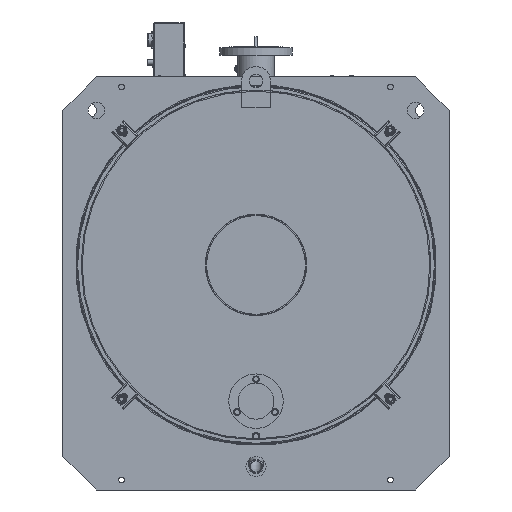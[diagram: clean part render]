
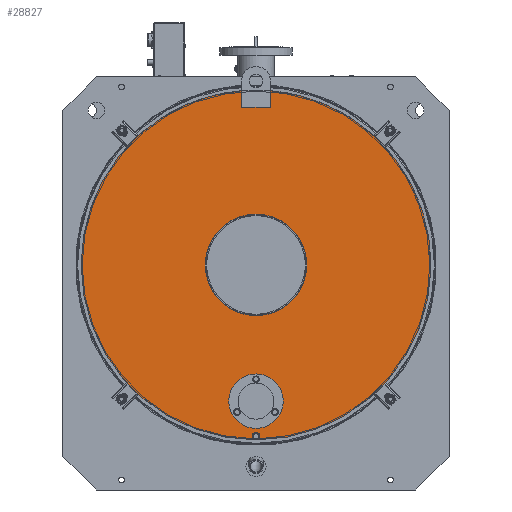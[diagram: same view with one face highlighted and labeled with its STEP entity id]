
A CAD part, left-side view. The second image highlights one B-rep face of the part: STEP entity #28827.
In plain terms, the highlighted planar face has unit normal (-1, 0, 0) by its records, which use the part's own axes.
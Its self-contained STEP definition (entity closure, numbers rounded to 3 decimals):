
#28827=ADVANCED_FACE('',(#94034,#94036,#94038),#94040,.T.);
#94034=FACE_BOUND('',#94035,.T.);
#94035=EDGE_LOOP('',(#129791,#129792,#129793,#129794,#129795,#129796,#129797,#129798,
#129799));
#94036=FACE_BOUND('',#94037,.T.);
#94037=EDGE_LOOP('',(#129800));
#94038=FACE_BOUND('',#94039,.T.);
#94039=EDGE_LOOP('',(#129801));
#94040=PLANE('',#94041);
#94041=AXIS2_PLACEMENT_3D('',#94042,#94043,#94044);
#94042=CARTESIAN_POINT('',(-2071.,0.,0.));
#94043=DIRECTION('',(-1.,0.,0.));
#94044=DIRECTION('',(0.,-1.,0.));
#129791=ORIENTED_EDGE('',*,*,#144763,.F.);
#129792=ORIENTED_EDGE('',*,*,#144764,.F.);
#129793=ORIENTED_EDGE('',*,*,#144765,.F.);
#129794=ORIENTED_EDGE('',*,*,#144694,.T.);
#129795=ORIENTED_EDGE('',*,*,#144693,.T.);
#129796=ORIENTED_EDGE('',*,*,#144766,.T.);
#129797=ORIENTED_EDGE('',*,*,#144767,.T.);
#129798=ORIENTED_EDGE('',*,*,#144768,.T.);
#129799=ORIENTED_EDGE('',*,*,#144696,.T.);
#129800=ORIENTED_EDGE('',*,*,#144769,.T.);
#129801=ORIENTED_EDGE('',*,*,#144770,.F.);
#144693=EDGE_CURVE('',#161404,#161402,#161405,.T.);
#144694=EDGE_CURVE('',#161406,#161404,#161407,.T.);
#144696=EDGE_CURVE('',#161410,#161408,#161411,.T.);
#144763=EDGE_CURVE('',#161527,#161408,#161528,.T.);
#144764=EDGE_CURVE('',#161529,#161527,#161530,.T.);
#144765=EDGE_CURVE('',#161406,#161529,#161531,.T.);
#144766=EDGE_CURVE('',#161402,#161532,#161533,.F.);
#144767=EDGE_CURVE('',#161532,#161534,#161535,.F.);
#144768=EDGE_CURVE('',#161534,#161410,#161536,.F.);
#144769=EDGE_CURVE('',#161537,#161537,#161538,.F.);
#144770=EDGE_CURVE('',#161539,#161539,#161540,.T.);
#161402=VERTEX_POINT('',#226069);
#161404=VERTEX_POINT('',#226073);
#161405=CIRCLE('',#226074,520.5);
#161406=VERTEX_POINT('',#226078);
#161407=CIRCLE('',#226079,520.5);
#161408=VERTEX_POINT('',#226083);
#161410=VERTEX_POINT('',#226088);
#161411=CIRCLE('',#226089,520.5);
#161527=VERTEX_POINT('',#226375);
#161528=LINE('',#226376,#226377);
#161529=VERTEX_POINT('',#226379);
#161530=LINE('',#226380,#226381);
#161531=LINE('',#226383,#226384);
#161532=VERTEX_POINT('',#226386);
#161533=LINE('',#226387,#226388);
#161534=VERTEX_POINT('',#226390);
#161535=CIRCLE('',#226391,11.);
#161536=LINE('',#226395,#226396);
#161537=VERTEX_POINT('',#226398);
#161538=CIRCLE('',#226399,151.);
#161539=VERTEX_POINT('',#226403);
#161540=CIRCLE('',#226404,81.);
#226069=CARTESIAN_POINT('',(-2071.,4.583,-520.48));
#226073=CARTESIAN_POINT('',(-2071.,520.5,-0.378));
#226074=AXIS2_PLACEMENT_3D('',#226075,#226076,#226077);
#226075=CARTESIAN_POINT('',(-2071.,0.,0.));
#226076=DIRECTION('',(-1.,0.,0.));
#226077=DIRECTION('',(0.,1.,-0.001));
#226078=CARTESIAN_POINT('',(-2071.,43.,518.721));
#226079=AXIS2_PLACEMENT_3D('',#226080,#226081,#226082);
#226080=CARTESIAN_POINT('',(-2071.,0.,0.));
#226081=DIRECTION('',(-1.,0.,0.));
#226082=DIRECTION('',(0.,0.083,0.997));
#226083=CARTESIAN_POINT('',(-2071.,-43.,518.721));
#226088=CARTESIAN_POINT('',(-2071.,-4.583,-520.48));
#226089=AXIS2_PLACEMENT_3D('',#226090,#226091,#226092);
#226090=CARTESIAN_POINT('',(-2071.,0.,0.));
#226091=DIRECTION('',(-1.,0.,0.));
#226092=DIRECTION('',(0.,-0.009,-1.));
#226375=CARTESIAN_POINT('',(-2071.,-43.,469.5));
#226376=CARTESIAN_POINT('',(-2071.,-43.,469.5));
#226377=VECTOR('',#226378,1.);
#226378=DIRECTION('',(0.,0.,1.));
#226379=CARTESIAN_POINT('',(-2071.,43.,469.5));
#226380=CARTESIAN_POINT('',(-2071.,43.,469.5));
#226381=VECTOR('',#226382,1.);
#226382=DIRECTION('',(0.,-1.,0.));
#226383=CARTESIAN_POINT('',(-2071.,43.,518.721));
#226384=VECTOR('',#226385,1.);
#226385=DIRECTION('',(0.,0.,-1.));
#226386=CARTESIAN_POINT('',(-2071.,4.583,-519.5));
#226387=CARTESIAN_POINT('',(-2071.,4.583,-519.5));
#226388=VECTOR('',#226389,1.);
#226389=DIRECTION('',(0.,0.,-1.));
#226390=CARTESIAN_POINT('',(-2071.,-4.583,-519.5));
#226391=AXIS2_PLACEMENT_3D('',#226392,#226393,#226394);
#226392=CARTESIAN_POINT('',(-2071.,0.,-509.5));
#226393=DIRECTION('',(-1.,0.,0.));
#226394=DIRECTION('',(0.,-0.417,-0.909));
#226395=CARTESIAN_POINT('',(-2071.,-4.583,-520.48));
#226396=VECTOR('',#226397,1.);
#226397=DIRECTION('',(0.,0.,1.));
#226398=CARTESIAN_POINT('',(-2071.,-151.,0.));
#226399=AXIS2_PLACEMENT_3D('',#226400,#226401,#226402);
#226400=CARTESIAN_POINT('',(-2071.,0.,0.));
#226401=DIRECTION('',(-1.,0.,0.));
#226402=DIRECTION('',(0.,-1.,0.));
#226403=CARTESIAN_POINT('',(-2071.,-81.,-405.5));
#226404=AXIS2_PLACEMENT_3D('',#226405,#226406,#226407);
#226405=CARTESIAN_POINT('',(-2071.,0.,-405.5));
#226406=DIRECTION('',(-1.,0.,0.));
#226407=DIRECTION('',(0.,-1.,0.));
